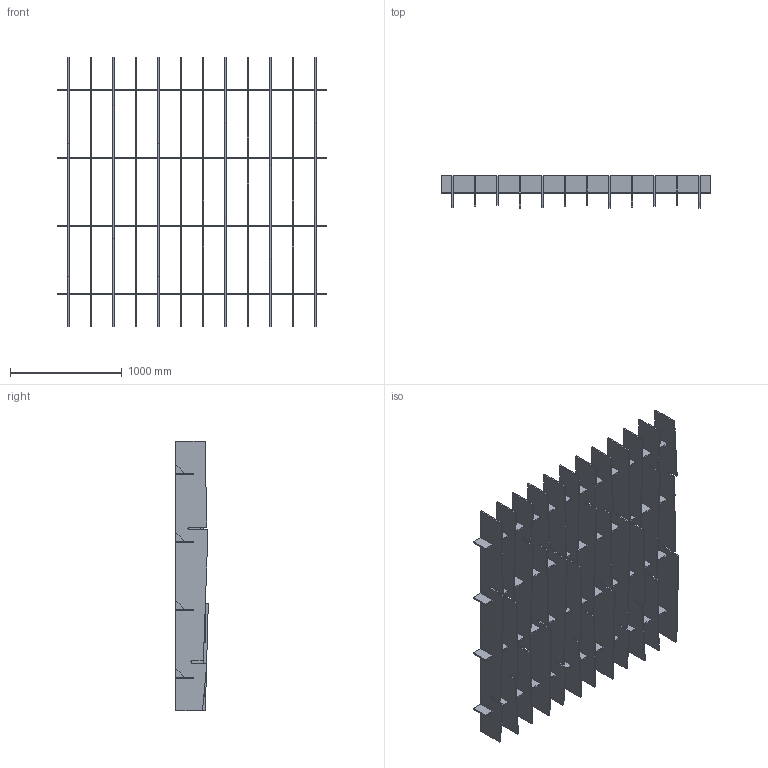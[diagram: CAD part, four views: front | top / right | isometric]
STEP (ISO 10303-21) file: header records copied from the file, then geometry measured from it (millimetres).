
FILE_DESCRIPTION(/* description */ (''),/* implementation_level */ '2;1');
FILE_NAME(/* name */ 'Y:\Design and Engineering\MaterialLogiq\CAD ASSETS\MASTER\BAFFLE\WEB ASSETS\PET BAFFLE_8x8_12FIN_10_SKYLINE.stp',/* time_stamp */ '2023-11-17T14:58:57-06:00',/* author */ ('Grant Baker'),/* organization */ (''),/* preprocessor_version */ 'ST-DEVELOPER v19',/* originating_system */ 'Autodesk Inventor 2023',/* authorisation */ '');
FILE_SCHEMA (('AUTOMOTIVE_DESIGN { 1 0 10303 214 3 1 1 }'));
Length unit declared in the file: inch
Products named in the file (6): PET BAFFLE_PARAMETRIC_11.02.2023; PET BAFFLE_BEAM; PET BAFFLE_FIN_96in_SKYLINE-1; PET BAFFLE_FIN_96in_SKYLINE-3; PET BAFFLE_FIN_96in_SKYLINE-2; PET BAFFLE_FIN_96in_SKYLINE-4
Assembly tree (16 placements, depth 2):
  PET BAFFLE_PARAMETRIC_11.02.2023
    PET BAFFLE_BEAM  x4
    PET BAFFLE_FIN_96in_SKYLINE-1  x3
    PET BAFFLE_FIN_96in_SKYLINE-3  x3
    PET BAFFLE_FIN_96in_SKYLINE-2  x3
    PET BAFFLE_FIN_96in_SKYLINE-4  x3
Bounding box: 2413 x 291.96 x 2413 mm (x, y, z)
Volume: 106300381 mm3; surface area: 18772261.3 mm2
Topology: 64 solids, 64 shells, 1266 faces, 3414 edges, 2276 vertices
Faces by surface type: plane 1224, cylinder 42
Entity records: 12165 total; most frequent: CARTESIAN_POINT 2140, ORIENTED_EDGE 2076, DIRECTION 1886, EDGE_CURVE 1038, LINE 1010, VECTOR 1010, VERTEX_POINT 692, AXIS2_PLACEMENT_3D 438
